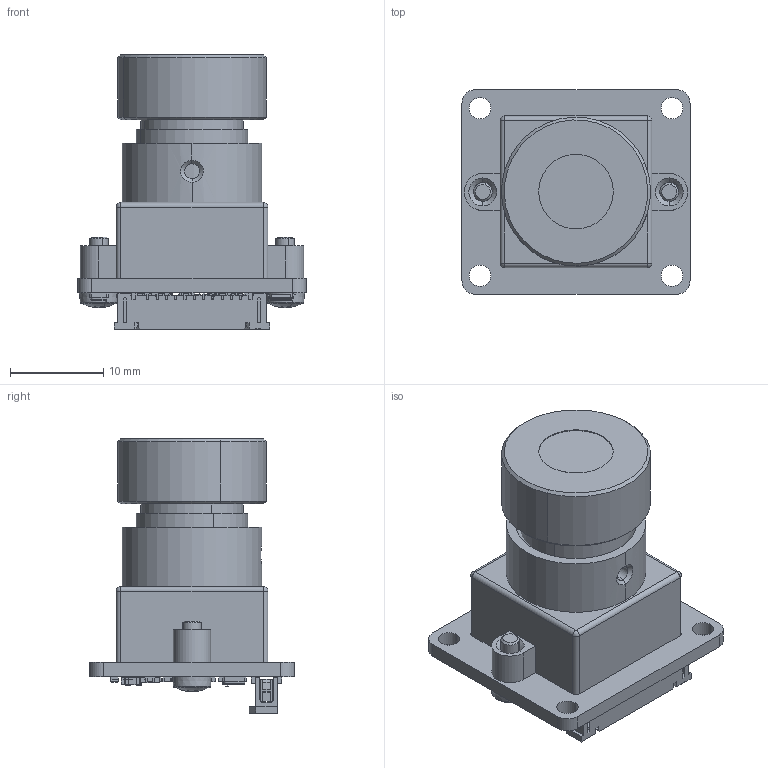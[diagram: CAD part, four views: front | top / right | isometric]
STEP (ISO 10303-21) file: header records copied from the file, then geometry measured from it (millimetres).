
FILE_DESCRIPTION((''),'2;1');
FILE_NAME('DS-CIMX415-22-60_LIGHT','2025-03-13T',('admin'),(''),'CREO PARAMETRIC BY PTC INC, 2017300','CREO PARAMETRIC BY PTC INC, 2017300','');
FILE_SCHEMA(('AUTOMOTIVE_DESIGN { 1 0 10303 214 1 1 1 1 }'));
Length unit declared in the file: millimetre
Products named in the file (1): DS-CIMX415-22-60_LIGHT
Bounding box: 24.5 x 22 x 29.46 mm (x, y, z)
Surface area: 3748.5 mm2 (no closed solid volume)
Topology: 0 solids, 260 shells, 628 faces, 2505 edges, 2121 vertices
Faces by surface type: plane 477, cylinder 97, bspline 19, cone 18, torus 12, sphere 5
Entity records: 31727 total; most frequent: CARTESIAN_POINT 7376, DIRECTION 4026, ORIENTED_EDGE 3074, EDGE_CURVE 2499, VERTEX_POINT 2121, VECTOR 2040, LINE 2040, AXIS2_PLACEMENT_3D 993
